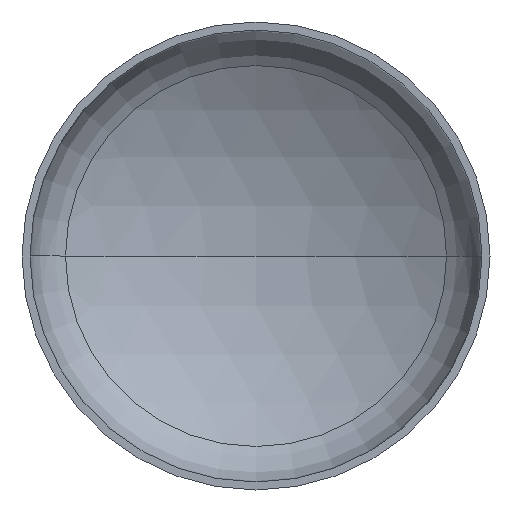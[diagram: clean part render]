
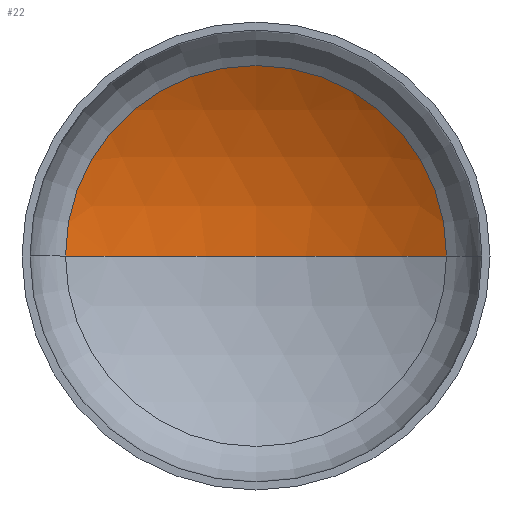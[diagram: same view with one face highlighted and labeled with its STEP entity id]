
A CAD part, front view. The second image highlights one B-rep face of the part: STEP entity #22.
In plain terms, the highlighted spherical face has radius 5600 mm.
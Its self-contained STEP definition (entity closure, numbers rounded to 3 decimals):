
#22 = ADVANCED_FACE ( 'NONE', ( #113 ), #111, .F. ) ;
#36 = ORIENTED_EDGE ( 'NONE', *, *, #72, .T. ) ;
#38 = AXIS2_PLACEMENT_3D ( 'NONE', #173, #184, #165 ) ;
#40 = AXIS2_PLACEMENT_3D ( 'NONE', #150, #272, #271 ) ;
#41 = AXIS2_PLACEMENT_3D ( 'NONE', #255, #254, #253 ) ;
#53 = AXIS2_PLACEMENT_3D ( 'NONE', #222, #249, #244 ) ;
#69 = EDGE_CURVE ( 'NONE', #172, #356, #171, .T. ) ;
#72 = EDGE_CURVE ( 'NONE', #329, #172, #87, .T. ) ;
#73 = CARTESIAN_POINT ( 'NONE',  ( 0., 1783.933, 0. ) ) ;
#74 = EDGE_CURVE ( 'NONE', #329, #356, #377, .T. ) ;
#87 = CIRCLE ( 'NONE', #40, 5600. ) ;
#111 = SPHERICAL_SURFACE ( 'NONE', #53, 5600. ) ;
#113 = FACE_OUTER_BOUND ( 'NONE', #159, .T. ) ;
#150 = CARTESIAN_POINT ( 'NONE',  ( 0., -3816.067, 0. ) ) ;
#159 = EDGE_LOOP ( 'NONE', ( #400, #36, #348 ) ) ;
#165 = DIRECTION ( 'NONE',  ( 1., 0., 0. ) ) ;
#171 = CIRCLE ( 'NONE', #41, 2849.558 ) ;
#172 = VERTEX_POINT ( 'NONE', #239 ) ;
#173 = CARTESIAN_POINT ( 'NONE',  ( 0., -3816.067, 0. ) ) ;
#184 = DIRECTION ( 'NONE',  ( 0., 0., 1. ) ) ;
#222 = CARTESIAN_POINT ( 'NONE',  ( 0., -3816.067, 0. ) ) ;
#239 = CARTESIAN_POINT ( 'NONE',  ( 2849.558, 1004.724, 0. ) ) ;
#244 = DIRECTION ( 'NONE',  ( -1., 0., 0. ) ) ;
#249 = DIRECTION ( 'NONE',  ( 0., 0., -1. ) ) ;
#253 = DIRECTION ( 'NONE',  ( 1., 0., 0. ) ) ;
#254 = DIRECTION ( 'NONE',  ( 0., -1., 0. ) ) ;
#255 = CARTESIAN_POINT ( 'NONE',  ( 0., 1004.724, 0. ) ) ;
#266 = CARTESIAN_POINT ( 'NONE',  ( -2849.558, 1004.724, 0. ) ) ;
#271 = DIRECTION ( 'NONE',  ( -1., 0., 0. ) ) ;
#272 = DIRECTION ( 'NONE',  ( 0., 0., -1. ) ) ;
#329 = VERTEX_POINT ( 'NONE', #73 ) ;
#348 = ORIENTED_EDGE ( 'NONE', *, *, #69, .T. ) ;
#356 = VERTEX_POINT ( 'NONE', #266 ) ;
#377 = CIRCLE ( 'NONE', #38, 5600. ) ;
#400 = ORIENTED_EDGE ( 'NONE', *, *, #74, .F. ) ;
